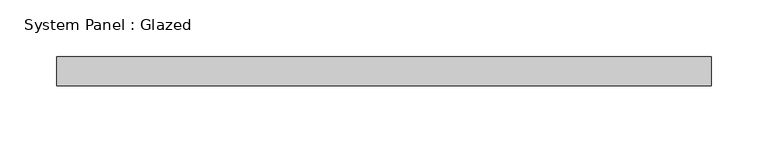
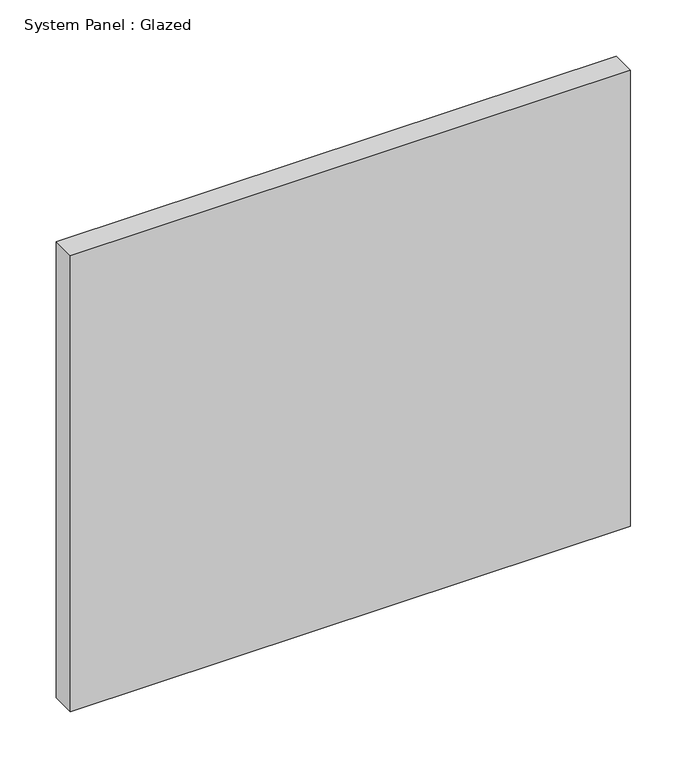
"""IFC4 building model written with IfcOpenShell, lengths in millimetres: plate geometry, System Panel : Glazed."""

from ifc_helpers import new_model, si_unit, origin, origin_with_axes, place, context, project, spatial, polyline, outline, extrude, source, transform, mapped, element, save


def system_panel_glazed_d0043e3c(model_context):
    return source(origin(), model_context, "Body", "SweptSolid", [
        extrude(outline(polyline([(287.655, -12.7), (-287.655, -12.7), (-287.655, 12.7), (287.655, 12.7), (287.655, -12.7)])), origin_with_axes(), (0.0, 0.0, 1.0), 495.3),
    ])


if __name__ == "__main__":
    model = new_model("IFC4")
    model_context = context("Model", 3, world=origin())
    ifc_project = project(units=[si_unit("LENGTHUNIT", "METRE", prefix="MILLI")], contexts=[model_context])
    site = spatial("IfcSite", under=ifc_project)
    building = spatial("IfcBuilding", under=site)
    placement = place(None, origin())
    system_panel_glazed_shape = system_panel_glazed_d0043e3c(model_context)
    element("IfcPlate", 1, ObjectType="System Panel : Glazed", at=placement, inside=building, context=model_context, shape_type="MappedRepresentation", body=[
        mapped(system_panel_glazed_shape, transform((0.0, 0.0, 0.0), x_axis=(1.0, 0.0, 0.0), y_axis=(0.0, 1.0, 0.0), z_axis=(0.0, 0.0, 1.0))),
    ])
    save(model, "model.ifc")
